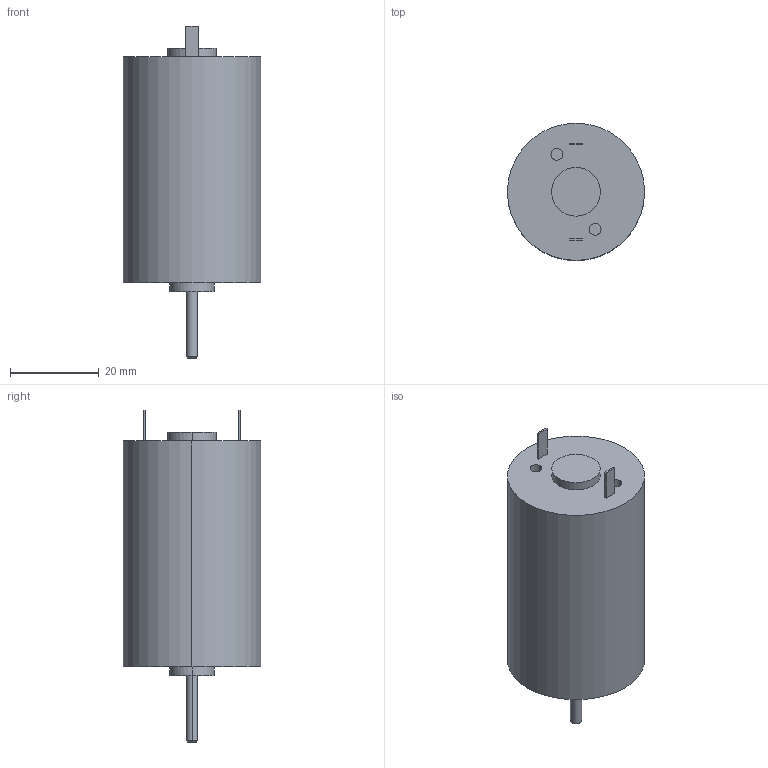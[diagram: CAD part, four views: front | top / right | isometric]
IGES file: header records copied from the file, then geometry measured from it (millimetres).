
Start section: Elysium IGES Interface
Global section: file name: P:\wetzstein\GHofmann\Katalogzeichnungen\Modelle\Fertig\1.13.021.34X_01.igs; native system: SolidDesigner 14.50B  17-Jun-2007; preprocessor: OneSpace IGES_3D V2.2; author: Unknown; organization: Unknown; date: 20100204.113742; units: millimetre
Bounding box: 31 x 31 x 75 mm (x, y, z)
Volume: 38778.8 mm3; surface area: 7165.2 mm2
Topology: 1 solids, 1 shells, 49 faces, 100 edges, 66 vertices
Faces by surface type: bspline 49
